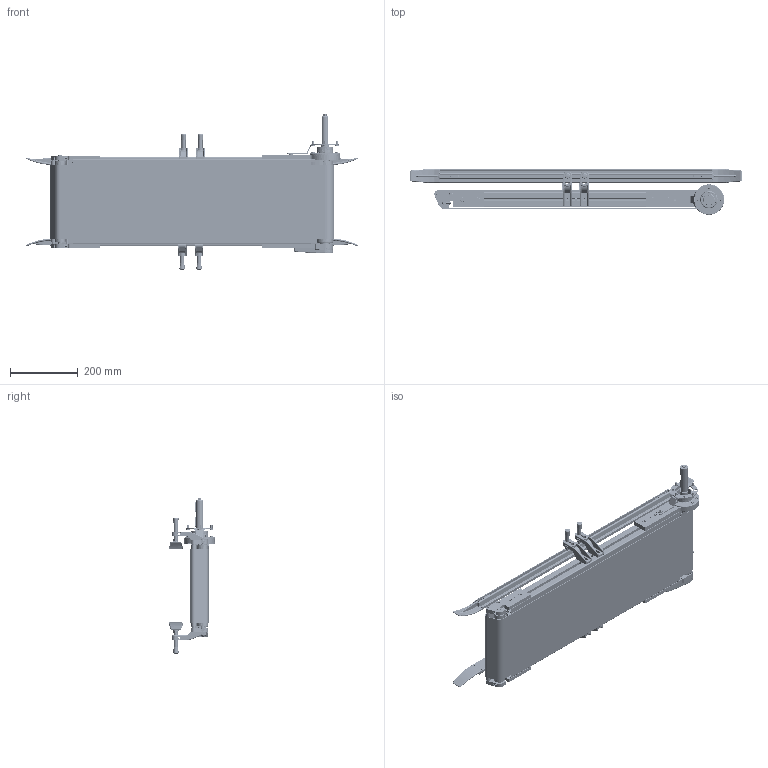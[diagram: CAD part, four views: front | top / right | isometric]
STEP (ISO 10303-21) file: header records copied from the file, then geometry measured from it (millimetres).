
FILE_DESCRIPTION (( 'STEP AP214' ), '1' );
FILE_NAME ('NASTRO_RETTILINEO_TAPPETO.step', '2026-05-08T11:17:25', ( 'Utente Windows' ), ( '' ), 'SwSTEP 2.0', 'SolidWorks 2024', '' );
FILE_SCHEMA (( 'AUTOMOTIVE_DESIGN' ));
Length unit declared in the file: millimetre
Products named in the file (69): BLOCCO_PERNO_50_WA20; VITE_DADO_M5X12; 084.802.071; 084.807.016_084.807.002; CHIAVETTE_A 5x5x20 UNI 6604-69; BLOCCO_RINVIO_50_PENNA_DX; BLOCCO_RINVIO_50_PENNA_SX; VITI TE UNI 5739_M6x12 UNI 5739; VITI TE UNI 5739 INOX_M5x12 UNI 5739 INOX; 084.802.034_084.802.034; 12UNI7435; 084.811.009; 084.302.000 DADI ALUSIC 9x9_084.302.014; 084.302.000 DADI ALUSIC 13x13-1_084.302.004; VITI TCEI UNI 5931_M4x25 UNI 5931; RULLO_50_Default<A macchina>; 084.711.010; 08UNI7435; BLOCCO_TRAINO_50_STANDARD; 084.712.005; 084.802.065_Default<A macchina>; PERNO_INF_50_PENNA; 084.807.002_084.807.002; VITI TSEI UNI 5933_M5x12 UNI 5933; RULLO_SUP_50_PENNA; CHIAVETTE_A 6x6x30 UNI 6604-69; SPONDA_Default<A macchina>; LAMIERA_1_PENNA; 084.802.062; RULLO_INF_50_PENNA; 084.802.060_Default<A macchina>; 084.807.001_084.807.001; TELAIO_50_STANDARD_Default<A macchina>; NASTRO_RETTILINEO_TAPPETO; 084.302.000 DADI ALUSIC 13x13-1_084.302.007; VITI TSEI UNI 5933_M4x12 UNI 5933; 084.711.005; 084.711.006_L1; 084.809.007; VITI TCEI UNI 5931_M6x30 UNI 5931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
Assembly tree (121 placements, depth 4):
  NASTRO_RETTILINEO_TAPPETO
    TAPPETO_STANDARD_1PENNA
    TELAIO_50_STANDARD_Default<A macchina>
    LAMIERA_1_PENNA
    RULLO_50_Default<A macchina>
    BLOCCO_PERNO_50_WA20
      084.810.001
      084.811.009
      RONDELLE FASCIA LARGA UNI 6593_6.4x24 UNI 6593
      VITI TE UNI 5739_M6x12 UNI 5739
      CHIAVETTE_A 5x5x20 UNI 6604-69
      CHIAVETTE_A 6x6x30 UNI 6604-69  x2
    BLOCCO_TRAINO_50_STANDARD_WA20_DX
      084.807.001_084.807.001
      084.802.034_084.802.034
      084.301.000 VITI ALUSIC_084.301.003  x2
      084.302.000 DADI ALUSIC 13x13-1_084.302.004  x2
      BLOCCO_BRACCIO_WA20_WA20
        084.808.012
        084.802.062
        VITI TE UNI 5739_M6x16 UNI 5739  x4
        084.802.060_Default<A macchina>
        VITI TE UNI 5739_M6x12 UNI 5739  x4
      084.802.065_Default<A macchina>
      VITI TCEI UNI 5931_M4x25 UNI 5931  x2
    BLOCCO_PERNO_50_RINVIO
      084.811.004
      084.810.001
    BLOCCO_TRAINO_50_STANDARD
      084.807.002_084.807.002
      084.802.017_084.802.017
      084.301.000 VITI ALUSIC_084.301.003  x2
      084.302.000 DADI ALUSIC 13x13-1_084.302.004  x2
      VITI TSEI UNI 5933_M4x12 UNI 5933  x4
      084.802.071
      VITI TSEI UNI 5933 INOX_0412UNI5933A2  x2
    RULLO_SUP_50_PENNA
    BLOCCO_RINVIO_50_PENNA_SX
      084.807.016_084.807.002
      084.809.007
      084.802.036
      VITI TCEI UNI 5931_M6x30 UNI 5931
      RONDELLE UNI 6592_5.3x10 UNI 6592  x2
      084.302.000 DADI ALUSIC 9x9_084.302.014  x2
      VITI TCEI UNI 5931_M6x20 UNI 5931
      084.301.000 VITI ALUSIC_084.301.036
      084.302.016
      084.301.000 VITI ALUSIC_084.301.003  x2
      VITI TE UNI 5739 INOX_M5x12 UNI 5739 INOX  x2
      12UNI7435
      08UNI7435  x3
    BLOCCO_RINVIO_50_PENNA_DX
      084.802.036
      084.807.015_084.807.002
      VITI TCEI UNI 5931_M6x30 UNI 5931
      084.827.040
      VITI TCEI UNI 5931_M6x20 UNI 5931
      084.301.000 VITI ALUSIC_084.301.036
      084.302.016
      084.301.000 VITI ALUSIC_084.301.003  x2
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Bounding box: 978.95 x 135 x 458.43 mm (x, y, z)
Volume: 3950293.8 mm3; surface area: 3122765.8 mm2
Topology: 161 solids, 164 shells, 6428 faces, 16007 edges, 9975 vertices
Faces by surface type: plane 2662, cylinder 2193, cone 593, torus 485, bspline 363, sphere 132
Entity records: 129466 total; most frequent: CARTESIAN_POINT 36376, ORIENTED_EDGE 19458, DIRECTION 18563, EDGE_CURVE 9729, AXIS2_PLACEMENT_3D 6632, VERTEX_POINT 6205, LINE 5299, VECTOR 5299
